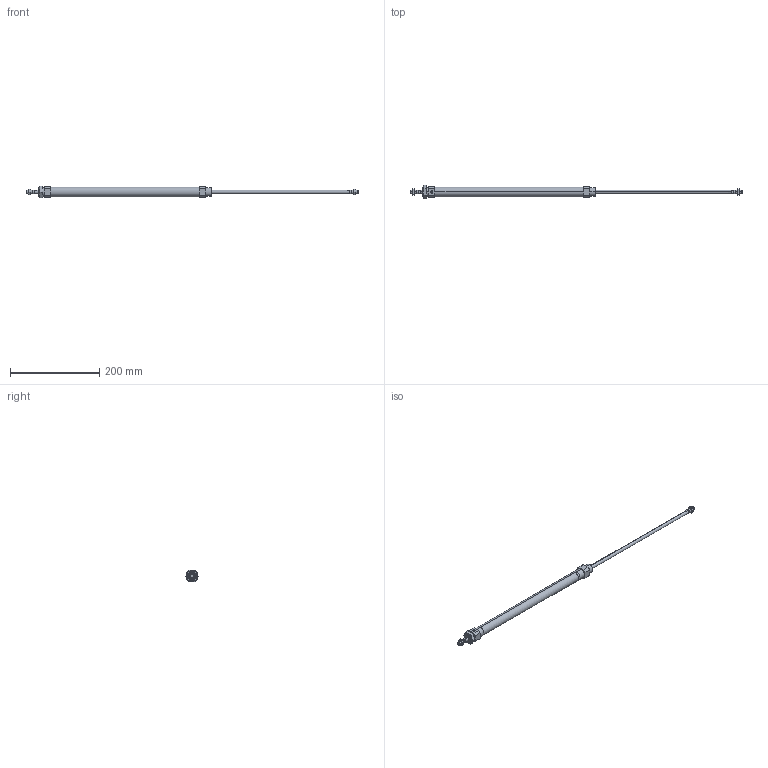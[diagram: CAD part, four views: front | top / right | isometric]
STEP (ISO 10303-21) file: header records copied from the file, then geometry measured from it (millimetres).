
FILE_DESCRIPTION (( 'STEP AP203' ), '1' );
FILE_NAME ('CSM2B20-300-P.STEP', '2020-07-20T16:41:49', ( '' ), ( '' ), 'SwSTEP 2.0', 'SolidWorks 2019', '' );
FILE_SCHEMA (( 'CONFIG_CONTROL_DESIGN' ));
Length unit declared in the file: millimetre
Products named in the file (1): CSM2B20-300-P
Bounding box: 744 x 30.02 x 26 mm (x, y, z)
Volume: 86981.3 mm3; surface area: 72307.7 mm2
Topology: 5 solids, 5 shells, 153 faces, 362 edges, 228 vertices
Faces by surface type: plane 62, cylinder 46, cone 45
Entity records: 5450 total; most frequent: CARTESIAN_POINT 1855, DIRECTION 741, ORIENTED_EDGE 720, EDGE_CURVE 360, AXIS2_PLACEMENT_3D 294, VERTEX_POINT 228, EDGE_LOOP 176, VECTOR 153
